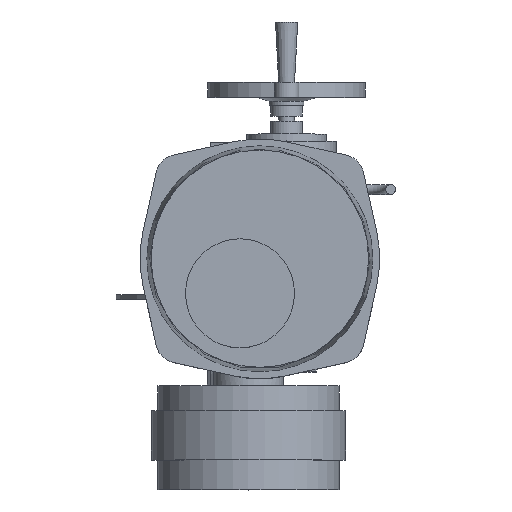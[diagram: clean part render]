
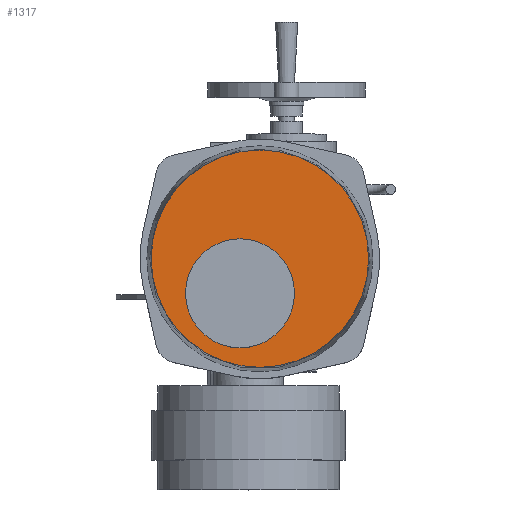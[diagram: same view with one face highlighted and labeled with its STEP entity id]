
A CAD part, top view. The second image highlights one B-rep face of the part: STEP entity #1317.
In plain terms, the highlighted planar face has unit normal (0, 0, 1).
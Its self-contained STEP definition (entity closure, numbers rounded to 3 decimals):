
#1317=ADVANCED_FACE('',(#2839,#2841),#2843,.T.);
#2839=FACE_BOUND('',#2840,.T.);
#2840=EDGE_LOOP('',(#3831));
#2841=FACE_BOUND('',#2842,.T.);
#2842=EDGE_LOOP('',(#3832));
#2843=PLANE('',#2844);
#2844=AXIS2_PLACEMENT_3D('',#2845,#2846,#2847);
#2845=CARTESIAN_POINT('',(20.,38.,551.));
#2846=DIRECTION('',(0.,0.,1.));
#2847=DIRECTION('',(-1.,0.,0.));
#3831=ORIENTED_EDGE('',*,*,#4310,.T.);
#3832=ORIENTED_EDGE('',*,*,#4315,.F.);
#4310=EDGE_CURVE('',#4927,#4927,#4928,.T.);
#4315=EDGE_CURVE('',#4937,#4937,#4938,.T.);
#4927=VERTEX_POINT('',#8043);
#4928=CIRCLE('',#8044,109.703);
#4937=VERTEX_POINT('',#8068);
#4938=CIRCLE('',#8069,55.);
#8043=CARTESIAN_POINT('',(-89.703,38.,551.));
#8044=AXIS2_PLACEMENT_3D('',#8045,#8046,#8047);
#8045=CARTESIAN_POINT('',(20.,38.,551.));
#8046=DIRECTION('',(0.,0.,1.));
#8047=DIRECTION('',(-1.,0.,0.));
#8068=CARTESIAN_POINT('',(-55.,3.,551.));
#8069=AXIS2_PLACEMENT_3D('',#8070,#8071,#8072);
#8070=CARTESIAN_POINT('',(0.,3.,551.));
#8071=DIRECTION('',(0.,0.,1.));
#8072=DIRECTION('',(-1.,0.,0.));
